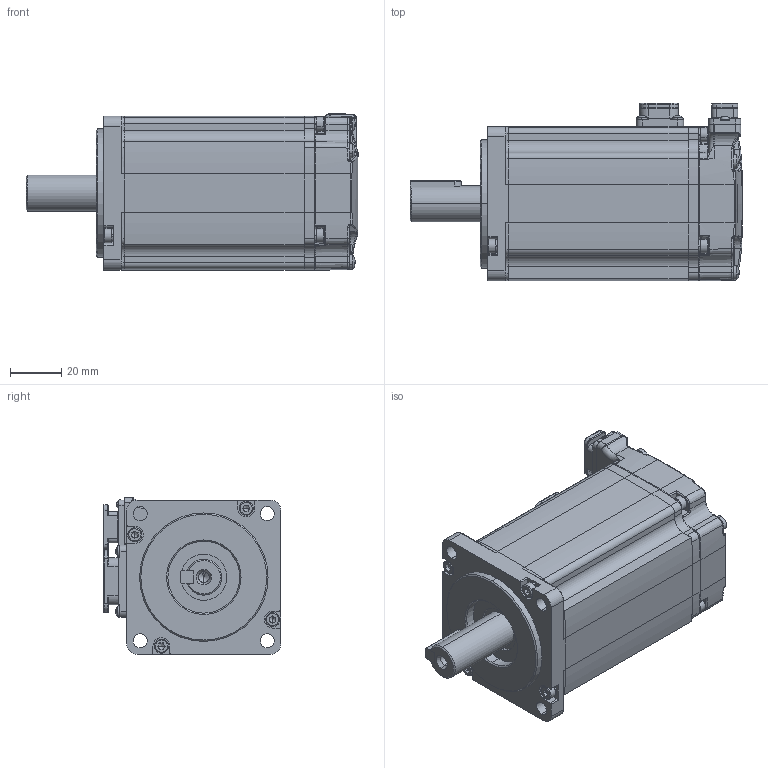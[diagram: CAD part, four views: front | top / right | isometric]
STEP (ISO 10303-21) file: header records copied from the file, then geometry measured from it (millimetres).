
FILE_DESCRIPTION (( 'STEP AP214' ), '1' );
FILE_NAME ('EM3A-04ALA223-N.STEP', '2022-09-06T05:14:34', ( '' ), ( '' ), 'SwSTEP 2.0', 'SolidWorks 2018', '' );
FILE_SCHEMA (( 'AUTOMOTIVE_DESIGN' ));
Length unit declared in the file: millimetre
Products named in the file (1): EM3A-04ALA223-N
Bounding box: 129.3 x 69.2 x 60.92 mm (x, y, z)
Volume: 297191.2 mm3; surface area: 78989.4 mm2
Topology: 19 solids, 20 shells, 2630 faces, 6723 edges, 4194 vertices
Faces by surface type: plane 1210, cylinder 800, cone 208, bspline 193, torus 180, sphere 39
Entity records: 118126 total; most frequent: CARTESIAN_POINT 26574, ORIENTED_EDGE 13316, DIRECTION 12784, EDGE_CURVE 6658, AXIS2_PLACEMENT_3D 4650, VERTEX_POINT 4193, VECTOR 3484, LINE 3484
